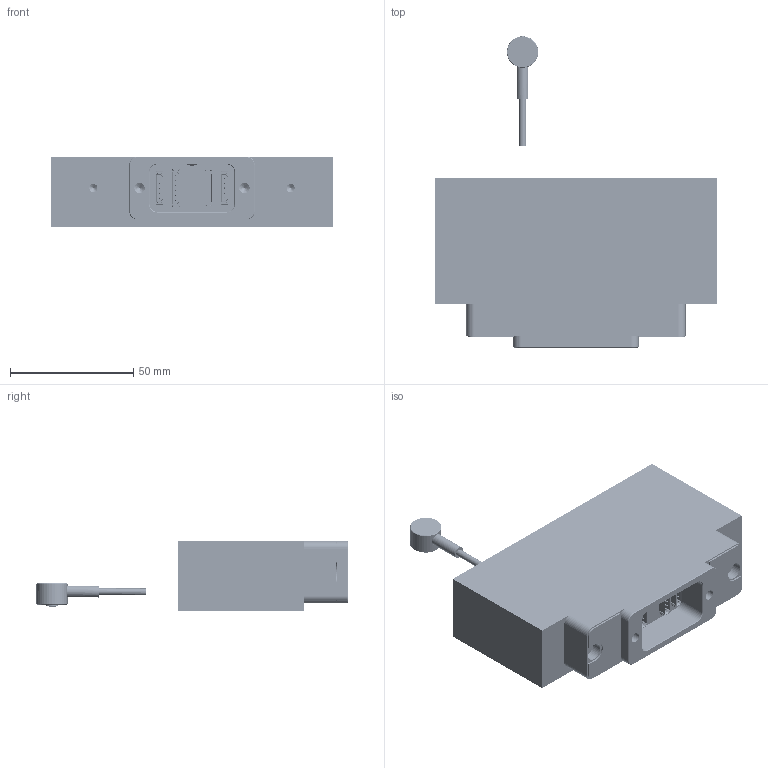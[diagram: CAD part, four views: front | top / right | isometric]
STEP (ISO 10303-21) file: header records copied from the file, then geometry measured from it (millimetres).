
FILE_DESCRIPTION (( 'STEP AP203' ), '1' );
FILE_NAME ('MCSG-B-127-XXXX_Sensor_Connector_SG-8_Install Block.STEP', '2021-04-27T17:42:13', ( '' ), ( '' ), 'SwSTEP 2.0', 'SolidWorks 2019', '' );
FILE_SCHEMA (( 'CONFIG_CONTROL_DESIGN' ));
Length unit declared in the file: inch
Products named in the file (176): M80-0150005_2- 5 Pin.STEP; M80-0150005_1- 5 Pin.STEP; M80-0150005- 5 Pin.STEP; M80-0140006-4.STEP; M80-1042298-5.STEP; m80-8400542 5 Pin Female.STEP; Y3198-2.STEP; M80-0200049_5.STEP; M80-0150005_3- 5 Pin.STEP; M80-0140006-1.STEP; MCSG assem & install.STEP; Partial Overmold Connector 19-3.STEP; M80-0140006-3.STEP; M80-0150005_4- 5 Pin.STEP; m80-8040522 Male Unlatched.STEP; M80-0200049_1.STEP; M80-0200049.STEP; Partial Overmold Connector 19-2.STEP; m80-8520542 5 Pin Male Harwin.STEP; M80-0140006-2.STEP; m80-8520642 6 Pin Male Harwin.STEP; Intermediate Board 18B.STEP; Y3198-4.STEP; Y3198.STEP; Square Sensor Board housing 19-5.STEP; M80-0140006.STEP; Partial Overmold Connector 19-4.STEP; Square Board 19-1.STEP; Mold Plate Label 18C.STEP; Square Sensor Board housing 19-1.STEP; Y3198-3.STEP; Mold Plate 18C-5.STEP; #4-40 Screw.STEP; Intermediate Board 18B-0.STEP; MCSG-B-127-XXXX_Sensor_Connector_SG-8_Install Block; Square Sensor Board housing 19.STEP; 805 Surface Mount Resistor.STEP; Cover Plate 18C.STEP; M80-1000698.STEP; Square Sensor Board housing 19-7.STEP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
Assembly tree (440 placements, depth 7):
  MCSG-B-127-XXXX_Sensor_Connector_SG-8_Install Block
    MCSG assem & install.STEP
      Intermediate Board 18C Assembly.STEP
        Intermediate Board 18B.STEP
          m80-8400542 5 Pin Female.STEP
            M80-0150005- 5 Pin.STEP
              M80-0140006.STEP
              Y3198.STEP
            M80-0150005_1- 5 Pin.STEP
              M80-0140006-1.STEP
              Y3198-1.STEP
            M80-0150005_2- 5 Pin.STEP
              M80-0140006-2.STEP
              Y3198-2.STEP
            M80-0150005_3- 5 Pin.STEP
              M80-0140006-3.STEP
              Y3198-3.STEP
            M80-0150005_4- 5 Pin.STEP
              M80-0140006-4.STEP
              Y3198-4.STEP
            M80-1042298-5.STEP
          m80-8520642 6 Pin Male Harwin.STEP
            M80-1000698.STEP
            M80-0200049.STEP
            M80-0200049_1.STEP
            M80-0200049_2.STEP
            M80-0200049_3.STEP
            M80-0200049_4.STEP
            M80-0200049_5.STEP
          m80-8520542 5 Pin Male Harwin.STEP
            M80-1000598.STEP
            M80-0200049.STEP
            M80-0200049_1.STEP
            M80-0200049_2.STEP
            M80-0200049_3.STEP
            M80-0200049_4.STEP
          m80-8520642 6 Pin Male Harwin.STEP
            M80-1000698.STEP
            M80-0200049.STEP
            M80-0200049_1.STEP
            M80-0200049_2.STEP
            M80-0200049_3.STEP
            M80-0200049_4.STEP
            M80-0200049_5.STEP
          m80-8520542 5 Pin Male Harwin.STEP
            M80-1000598.STEP
            M80-0200049.STEP
            M80-0200049_1.STEP
            M80-0200049_2.STEP
            M80-0200049_3.STEP
            M80-0200049_4.STEP
          m80-8400542 5 Pin Female.STEP
            M80-0150005- 5 Pin.STEP
              M80-0140006.STEP
              Y3198.STEP
            M80-0150005_1- 5 Pin.STEP
              M80-0140006-1.STEP
              Y3198-1.STEP
            M80-0150005_2- 5 Pin.STEP
              M80-0140006-2.STEP
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Bounding box: 114.3 x 126.29 x 28.57 mm (x, y, z)
Volume: 179532.8 mm3; surface area: 89414.3 mm2
Topology: 330 solids, 394 shells, 16148 faces, 38647 edges, 23320 vertices
Faces by surface type: plane 5610, bspline 4650, cylinder 3418, cone 1962, torus 396, sphere 112
Entity records: 101541 total; most frequent: CARTESIAN_POINT 24301, DIRECTION 10783, ORIENTED_EDGE 10500, EDGE_CURVE 5266, AXIS2_PLACEMENT_3D 4163, VERTEX_POINT 3152, EDGE_LOOP 2466, VECTOR 2457
